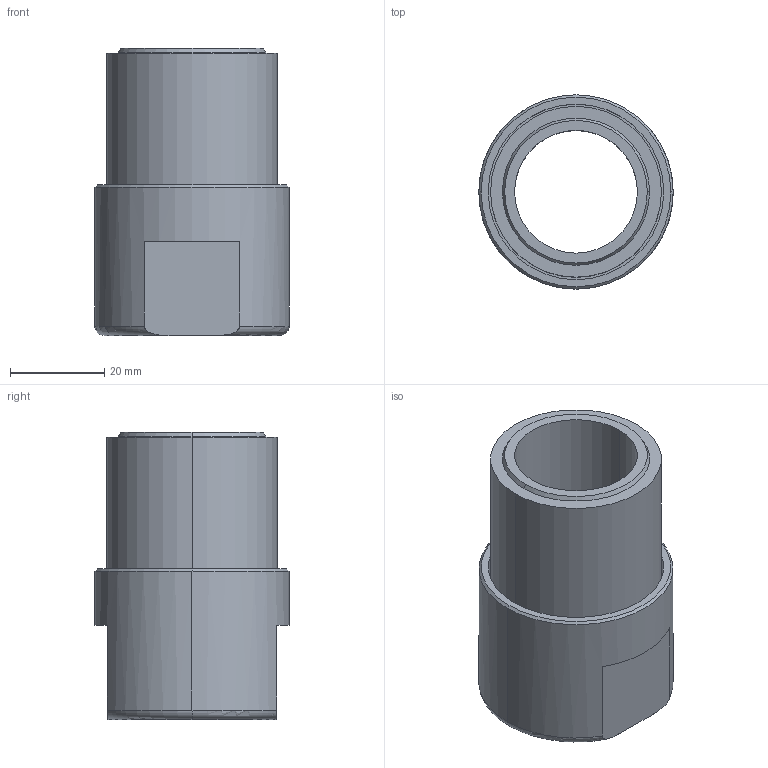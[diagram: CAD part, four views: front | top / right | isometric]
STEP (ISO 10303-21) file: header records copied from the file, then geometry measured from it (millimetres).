
FILE_DESCRIPTION (( 'STEP AP203' ), '1' );
FILE_NAME ('KP_C15-32FS-AB.step', '2011-08-08T11:36:55', ( '' ), ( '' ), 'SwSTEP 2.0', 'SolidWorks 2011', '' );
FILE_SCHEMA (( 'CONFIG_CONTROL_DESIGN' ));
Length unit declared in the file: millimetre
Products named in the file (1): KP_C15-32FS-AB
Bounding box: 41.3 x 41.3 x 61 mm (x, y, z)
Volume: 33070.7 mm3; surface area: 15864.5 mm2
Topology: 1 solids, 1 shells, 33 faces, 72 edges, 45 vertices
Faces by surface type: cylinder 12, plane 10, cone 8, torus 3
Entity records: 1051 total; most frequent: CARTESIAN_POINT 215, DIRECTION 176, ORIENTED_EDGE 144, AXIS2_PLACEMENT_3D 74, EDGE_CURVE 72, VERTEX_POINT 45, CIRCLE 40, EDGE_LOOP 39
